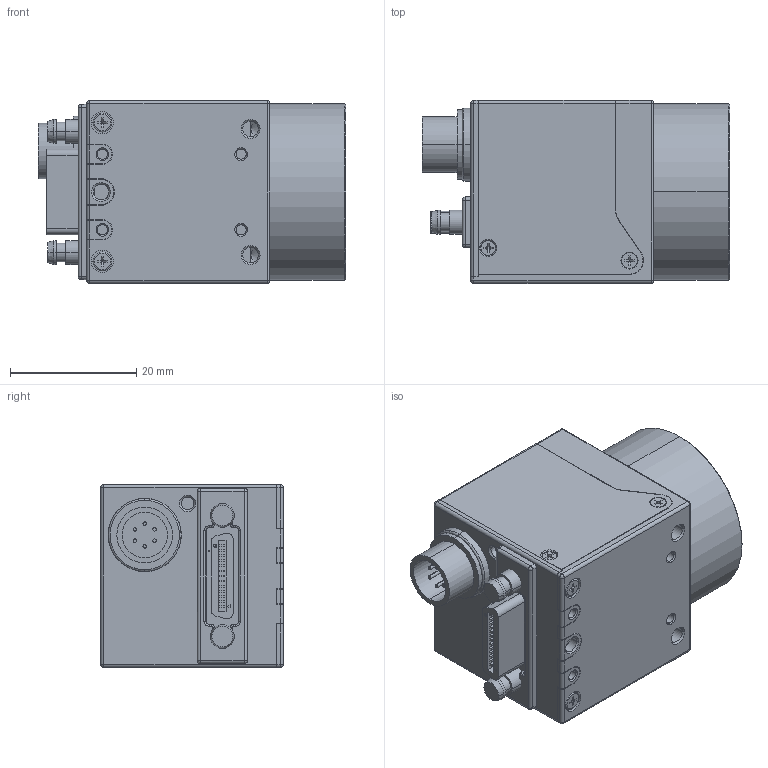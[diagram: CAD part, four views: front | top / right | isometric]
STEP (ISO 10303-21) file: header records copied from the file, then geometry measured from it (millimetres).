
FILE_DESCRIPTION((''),'2;1');
FILE_NAME('SMCL-BASE-K_ASM_ASM','2018-05-16T',('Dongwoo'),(''),'CREO PARAMETRIC BY PTC INC, 2016130','CREO PARAMETRIC BY PTC INC, 2016130','');
FILE_SCHEMA(('CONFIG_CONTROL_DESIGN'));
Length unit declared in the file: inch
Products named in the file (14): MCXP-BASEBODY-C_5; MCXP-GLASS-COVER_1; USB3_0-TOP-COVER_1; M1_6-L2_2; GLASS-18X15_1; M2_L3_2; SMCL-BACK-BASE_51; LED-SMD_4; PRT0002_4; HR10A_7R_6P_4; SMCL-BACK-BASE_ASM_14_ASM; M2_L2_3; SMCL-BASE-K_ASM_1_ASM; SMCL-BASE-K_ASM_ASM
Assembly tree (20 placements, depth 4):
  SMCL-BASE-K_ASM_ASM
    SMCL-BASE-K_ASM_1_ASM
      MCXP-BASEBODY-C_5
      MCXP-GLASS-COVER_1
      USB3_0-TOP-COVER_1
      M1_6-L2_2  x4
      GLASS-18X15_1
      M2_L3_2  x3
      SMCL-BACK-BASE_ASM_14_ASM
        SMCL-BACK-BASE_51
        LED-SMD_4
        PRT0002_4
        HR10A_7R_6P_4
      M2_L2_3  x3
Bounding box: 48.73 x 29 x 29 mm (x, y, z)
Volume: 26728.3 mm3; surface area: 18125.2 mm2
Topology: 18 solids, 51 shells, 1584 faces, 3926 edges, 2516 vertices
Faces by surface type: plane 928, cylinder 439, cone 124, bspline 54, torus 34, sphere 5
Entity records: 47088 total; most frequent: CARTESIAN_POINT 14540, DIRECTION 6679, ORIENTED_EDGE 6612, EDGE_CURVE 3350, AXIS2_PLACEMENT_3D 2269, VERTEX_POINT 2183, VECTOR 2141, LINE 2141
